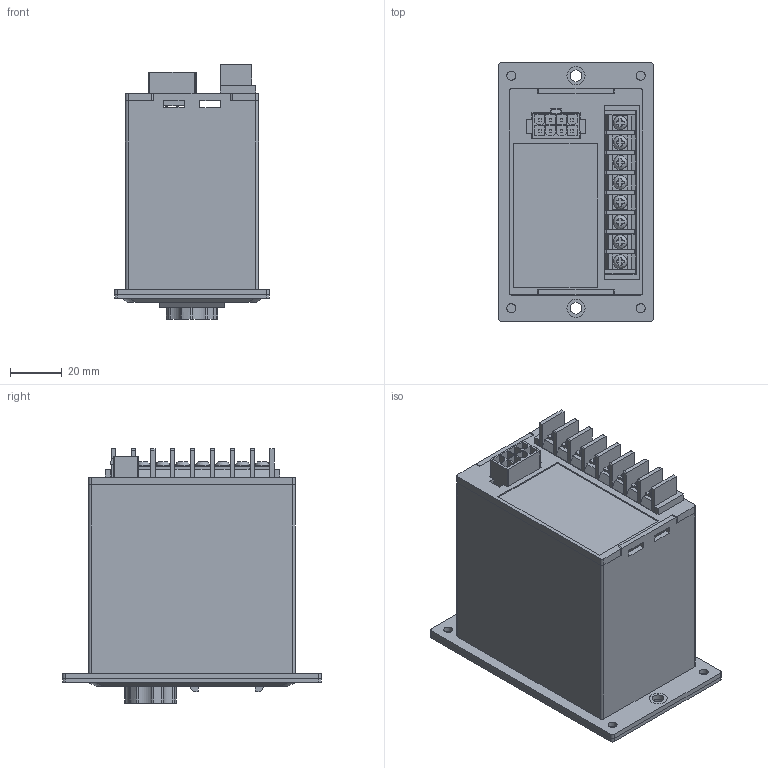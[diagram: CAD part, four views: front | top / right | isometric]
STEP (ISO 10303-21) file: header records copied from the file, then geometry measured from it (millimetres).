
FILE_DESCRIPTION((''),'2;1');
FILE_NAME('D:\yang\Yang cw\SPG 업무\2. DC MOTOR\7. DC MOTOR 브로슈어\SPEED CONTROLLER\Imported Components\SUA COTROL BOX\SUA COTROL BOX.stp','2015-03-25T10:51:34',('ycw1227'),(''),'Autodesk Inventor 2013','Autodesk Inventor 2013','');
FILE_SCHEMA(('AUTOMOTIVE_DESIGN { 1 0 10303 214 1 1 1 1 }'));
Length unit declared in the file: millimetre
Products named in the file (1): 부품11
Bounding box: 60 x 100 x 98.55 mm (x, y, z)
Volume: 76136.5 mm3; surface area: 76809.5 mm2
Topology: 4 solids, 4 shells, 2658 faces, 7176 edges, 4767 vertices
Faces by surface type: plane 1675, bspline 768, cylinder 210, cone 5
Full cylindrical faces by diameter (mm): 3 x11, 3.5 x4, 3.664 x1, 4 x2, 4.465 x8, 4.5 x4, 4.565 x8, 5.4 x8, 6 x1, 7 x1, 20 x1, 21 x2, 25 x1
Entity records: 87160 total; most frequent: CARTESIAN_POINT 25147, ORIENTED_EDGE 14204, DIRECTION 9738, EDGE_CURVE 7102, VECTOR 5000, LINE 5000, VERTEX_POINT 4754, EDGE_LOOP 3006
